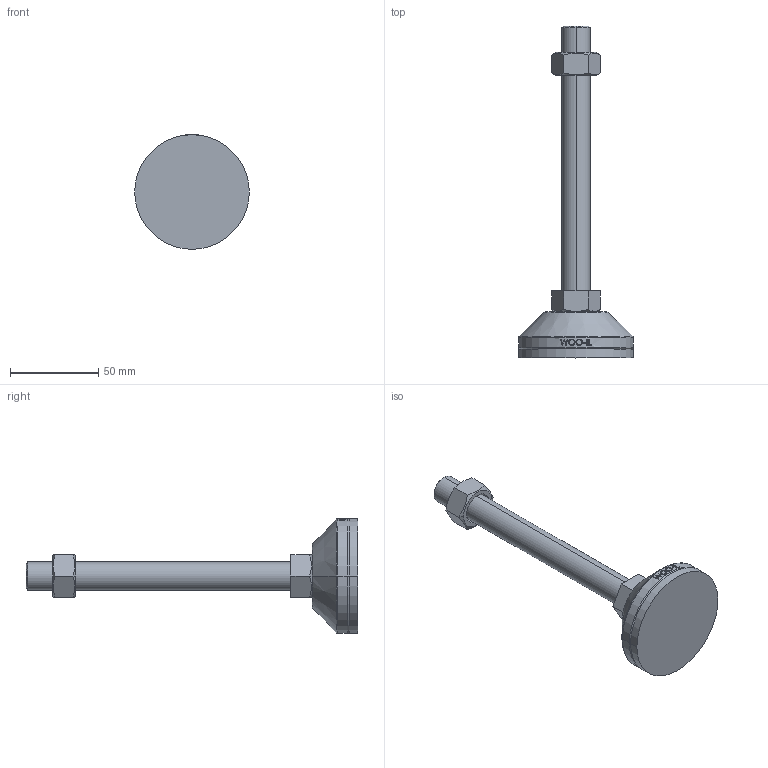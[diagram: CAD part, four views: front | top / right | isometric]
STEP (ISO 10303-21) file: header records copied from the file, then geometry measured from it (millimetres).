
FILE_DESCRIPTION (( 'STEP AP214' ), '1' );
FILE_NAME ('NHNR65-M16-150 (Æò).step', '2021-01-25T06:19:35', ( '' ), ( '' ), 'SwSTEP 2.0', 'SolidWorks 2019', '' );
FILE_SCHEMA (( 'AUTOMOTIVE_DESIGN' ));
Length unit declared in the file: millimetre
Products named in the file (2): NHNR65-M16-150 (ゎ)
Bounding box: 65 x 188 x 65 mm (x, y, z)
Volume: 108394.9 mm3; surface area: 28173.4 mm2
Topology: 4 solids, 4 shells, 100 faces, 229 edges, 146 vertices
Faces by surface type: plane 48, cylinder 16, bspline 16, cone 14, torus 6
Entity records: 4231 total; most frequent: CARTESIAN_POINT 2025, ORIENTED_EDGE 458, DIRECTION 401, EDGE_CURVE 229, AXIS2_PLACEMENT_3D 152, VERTEX_POINT 146, EDGE_LOOP 111, ADVANCED_FACE 100
